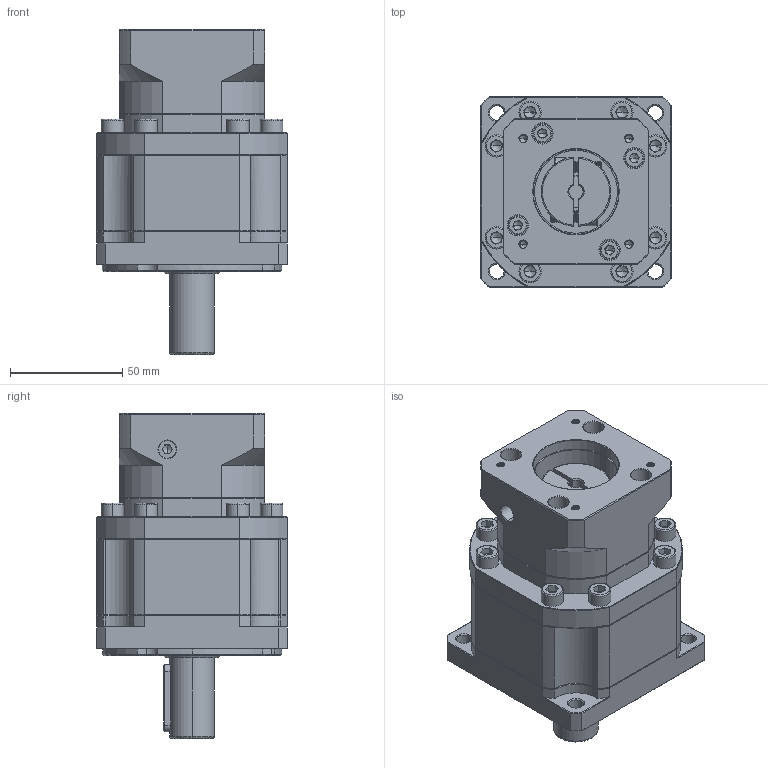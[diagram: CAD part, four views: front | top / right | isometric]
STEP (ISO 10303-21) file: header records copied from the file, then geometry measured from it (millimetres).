
FILE_DESCRIPTION (( 'STEP AP214' ), '1' );
FILE_NAME ('ZB090-D20-L2-P2-6.35-38.1-47.14X47.14-M4.step', '2023-08-18T13:33:22', ( '' ), ( '' ), 'SwSTEP 2.0', 'SolidWorks 2016', '' );
FILE_SCHEMA (( 'AUTOMOTIVE_DESIGN' ));
Length unit declared in the file: millimetre
Products named in the file (1): ZB090-D20-L2-P2-6.35-38.1-47.14X47.14-M4
Bounding box: 85 x 85 x 145 mm (x, y, z)
Volume: 548122 mm3; surface area: 76336.1 mm2
Topology: 6 solids, 6 shells, 2351 faces, 6251 edges, 3996 vertices
Faces by surface type: plane 1185, bspline 426, cylinder 394, cone 324, torus 22
Entity records: 123142 total; most frequent: CARTESIAN_POINT 42166, ORIENTED_EDGE 12410, DIRECTION 9899, EDGE_CURVE 6205, VERTEX_POINT 3996, LINE 3927, VECTOR 3927, AXIS2_PLACEMENT_3D 2986
